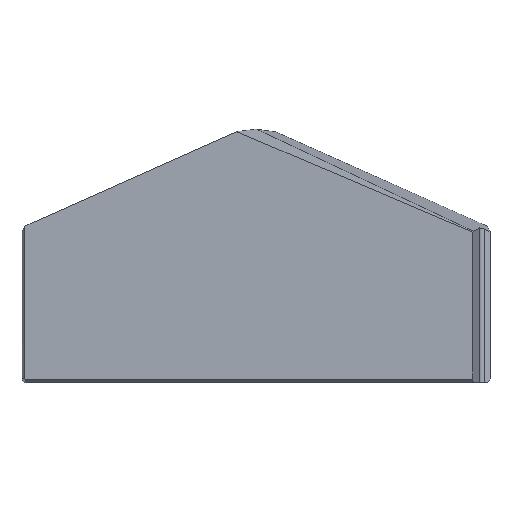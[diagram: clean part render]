
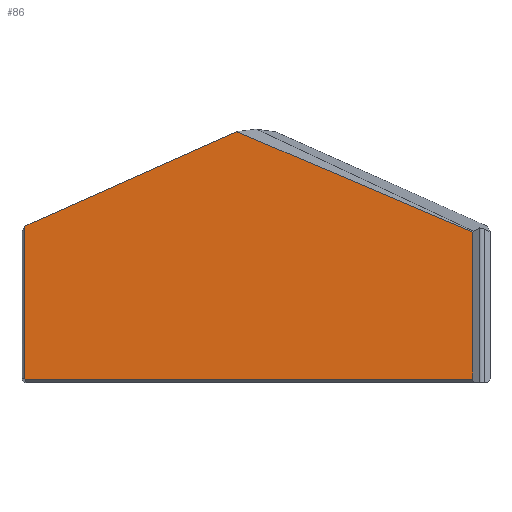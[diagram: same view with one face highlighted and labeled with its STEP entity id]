
A CAD part, top view. The second image highlights one B-rep face of the part: STEP entity #86.
In plain terms, the highlighted planar face has unit normal (0, 0, 1).
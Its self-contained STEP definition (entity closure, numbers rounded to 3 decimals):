
#11 = EDGE_CURVE ( 'NONE', #44, #375, #461, .T. ) ;
#25 = EDGE_LOOP ( 'NONE', ( #122, #212, #129, #607, #490, #174 ) ) ;
#27 = EDGE_CURVE ( 'NONE', #44, #355, #53, .T. ) ;
#41 = CARTESIAN_POINT ( 'NONE',  ( 0., 0., 6.4 ) ) ;
#44 = VERTEX_POINT ( 'NONE', #233 ) ;
#46 = CARTESIAN_POINT ( 'NONE',  ( 17.6, 12.232, 6.4 ) ) ;
#53 = LINE ( 'NONE', #77, #210 ) ;
#77 = CARTESIAN_POINT ( 'NONE',  ( -18.779, 0., 6.4 ) ) ;
#79 = CARTESIAN_POINT ( 'NONE',  ( -18.779, 0.3, 6.4 ) ) ;
#86 = ADVANCED_FACE ( 'NONE', ( #332 ), #180, .T. ) ;
#122 = ORIENTED_EDGE ( 'NONE', *, *, #473, .T. ) ;
#129 = ORIENTED_EDGE ( 'NONE', *, *, #525, .T. ) ;
#147 = CARTESIAN_POINT ( 'NONE',  ( 7.119, 16.7, 6.4 ) ) ;
#163 = VECTOR ( 'NONE', #489, 1000. ) ;
#171 = LINE ( 'NONE', #237, #352 ) ;
#174 = ORIENTED_EDGE ( 'NONE', *, *, #564, .T. ) ;
#176 = VERTEX_POINT ( 'NONE', #396 ) ;
#180 = PLANE ( 'NONE',  #459 ) ;
#191 = VERTEX_POINT ( 'NONE', #46 ) ;
#210 = VECTOR ( 'NONE', #533, 1000. ) ;
#212 = ORIENTED_EDGE ( 'NONE', *, *, #613, .T. ) ;
#214 = VECTOR ( 'NONE', #296, 1000. ) ;
#233 = CARTESIAN_POINT ( 'NONE',  ( -18.779, 0.3, 6.4 ) ) ;
#237 = CARTESIAN_POINT ( 'NONE',  ( 17.6, 0., 6.4 ) ) ;
#249 = VECTOR ( 'NONE', #397, 1000. ) ;
#296 = DIRECTION ( 'NONE',  ( 1., 0., 0. ) ) ;
#329 = CARTESIAN_POINT ( 'NONE',  ( -18.773, 0.289, 6.4 ) ) ;
#332 = FACE_OUTER_BOUND ( 'NONE', #25, .T. ) ;
#352 = VECTOR ( 'NONE', #492, 1000. ) ;
#355 = VERTEX_POINT ( 'NONE', #557 ) ;
#358 = CARTESIAN_POINT ( 'NONE',  ( -18.773, 0.289, 6.4 ) ) ;
#375 = VERTEX_POINT ( 'NONE', #358 ) ;
#396 = CARTESIAN_POINT ( 'NONE',  ( 17.6, 0.289, 6.4 ) ) ;
#397 = DIRECTION ( 'NONE',  ( -0.92, 0.392, 0. ) ) ;
#399 = LINE ( 'NONE', #530, #214 ) ;
#403 = VERTEX_POINT ( 'NONE', #514 ) ;
#459 = AXIS2_PLACEMENT_3D ( 'NONE', #41, #538, #527 ) ;
#461 = B_SPLINE_CURVE_WITH_KNOTS ( 'NONE', 3,
 ( #79, #487, #481, #329 ),
 .UNSPECIFIED., .F., .F.,
 ( 4, 4 ),
 ( 0., 0. ),
 .UNSPECIFIED. ) ;
#473 = EDGE_CURVE ( 'NONE', #176, #191, #171, .T. ) ;
#480 = CARTESIAN_POINT ( 'NONE',  ( 0., 21.09, 6.4 ) ) ;
#481 = CARTESIAN_POINT ( 'NONE',  ( -18.775, 0.292, 6.4 ) ) ;
#487 = CARTESIAN_POINT ( 'NONE',  ( -18.777, 0.296, 6.4 ) ) ;
#489 = DIRECTION ( 'NONE',  ( -0.914, -0.407, 0. ) ) ;
#490 = ORIENTED_EDGE ( 'NONE', *, *, #11, .T. ) ;
#492 = DIRECTION ( 'NONE',  ( 0., 1., 0. ) ) ;
#514 = CARTESIAN_POINT ( 'NONE',  ( -1.555, 20.398, 6.4 ) ) ;
#519 = LINE ( 'NONE', #480, #163 ) ;
#525 = EDGE_CURVE ( 'NONE', #403, #355, #519, .T. ) ;
#527 = DIRECTION ( 'NONE',  ( 1., 0., 0. ) ) ;
#530 = CARTESIAN_POINT ( 'NONE',  ( 18.604, 0.289, 6.4 ) ) ;
#533 = DIRECTION ( 'NONE',  ( 0., 1., 0. ) ) ;
#538 = DIRECTION ( 'NONE',  ( 0., 0., 1. ) ) ;
#557 = CARTESIAN_POINT ( 'NONE',  ( -18.779, 12.729, 6.4 ) ) ;
#564 = EDGE_CURVE ( 'NONE', #375, #176, #399, .T. ) ;
#607 = ORIENTED_EDGE ( 'NONE', *, *, #27, .F. ) ;
#613 = EDGE_CURVE ( 'NONE', #191, #403, #627, .T. ) ;
#627 = LINE ( 'NONE', #147, #249 ) ;
